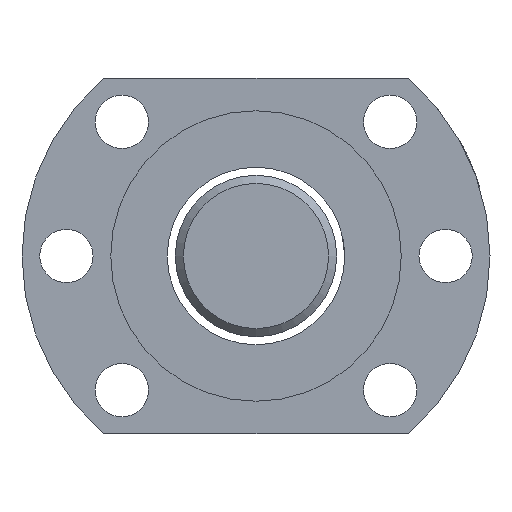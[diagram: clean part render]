
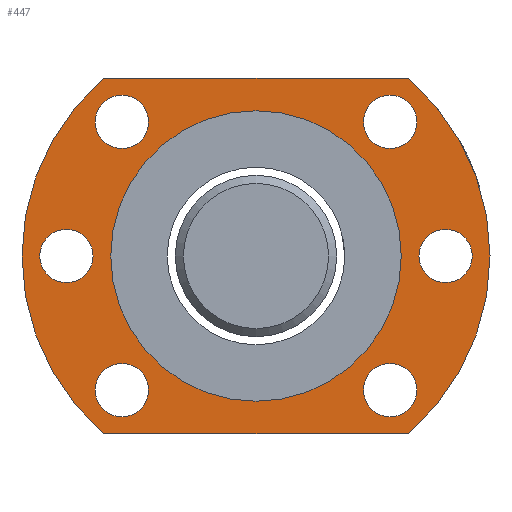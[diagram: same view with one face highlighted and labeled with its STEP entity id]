
A CAD part, left-side view. The second image highlights one B-rep face of the part: STEP entity #447.
In plain terms, the highlighted planar face has unit normal (-1, 0, 0).
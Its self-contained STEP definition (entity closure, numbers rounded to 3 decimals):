
#63=LINE('',#709,#71);
#68=LINE('',#750,#76);
#71=VECTOR('',#591,1000.);
#76=VECTOR('',#604,1000.);
#81=PLANE('',#518);
#121=ORIENTED_EDGE('',*,*,#213,.F.);
#122=ORIENTED_EDGE('',*,*,#205,.T.);
#123=ORIENTED_EDGE('',*,*,#197,.T.);
#124=ORIENTED_EDGE('',*,*,#211,.T.);
#125=ORIENTED_EDGE('',*,*,#208,.T.);
#126=ORIENTED_EDGE('',*,*,#186,.T.);
#127=ORIENTED_EDGE('',*,*,#194,.F.);
#128=ORIENTED_EDGE('',*,*,#196,.F.);
#129=ORIENTED_EDGE('',*,*,#188,.T.);
#130=ORIENTED_EDGE('',*,*,#192,.F.);
#131=ORIENTED_EDGE('',*,*,#190,.T.);
#186=EDGE_CURVE('',#234,#234,#274,.T.);
#188=EDGE_CURVE('',#236,#236,#276,.T.);
#190=EDGE_CURVE('',#238,#238,#278,.T.);
#192=EDGE_CURVE('',#240,#240,#280,.T.);
#194=EDGE_CURVE('',#242,#242,#282,.T.);
#196=EDGE_CURVE('',#244,#244,#284,.T.);
#197=EDGE_CURVE('',#245,#246,#63,.T.);
#205=EDGE_CURVE('',#253,#245,#285,.T.);
#208=EDGE_CURVE('',#255,#253,#68,.T.);
#211=EDGE_CURVE('',#246,#255,#287,.T.);
#213=EDGE_CURVE('',#257,#257,#289,.T.);
#234=VERTEX_POINT('',#682);
#236=VERTEX_POINT('',#687);
#238=VERTEX_POINT('',#692);
#240=VERTEX_POINT('',#697);
#242=VERTEX_POINT('',#702);
#244=VERTEX_POINT('',#707);
#245=VERTEX_POINT('',#710);
#246=VERTEX_POINT('',#711);
#253=VERTEX_POINT('',#745);
#255=VERTEX_POINT('',#751);
#257=VERTEX_POINT('',#760);
#274=CIRCLE('',#494,3.3);
#276=CIRCLE('',#497,3.3);
#278=CIRCLE('',#500,3.3);
#280=CIRCLE('',#503,3.3);
#282=CIRCLE('',#506,3.3);
#284=CIRCLE('',#509,3.3);
#285=CIRCLE('',#512,29.);
#287=CIRCLE('',#516,29.);
#289=CIRCLE('',#519,18.);
#319=EDGE_LOOP('',(#121));
#320=EDGE_LOOP('',(#122,#123,#124,#125));
#321=EDGE_LOOP('',(#126));
#322=EDGE_LOOP('',(#127));
#323=EDGE_LOOP('',(#128));
#324=EDGE_LOOP('',(#129));
#325=EDGE_LOOP('',(#130));
#326=EDGE_LOOP('',(#131));
#379=FACE_BOUND('',#319,.T.);
#380=FACE_BOUND('',#320,.T.);
#381=FACE_BOUND('',#321,.T.);
#382=FACE_BOUND('',#322,.T.);
#383=FACE_BOUND('',#323,.T.);
#384=FACE_BOUND('',#324,.T.);
#385=FACE_BOUND('',#325,.T.);
#386=FACE_BOUND('',#326,.T.);
#447=ADVANCED_FACE('',(#379,#380,#381,#382,#383,#384,#385,#386),#81,.T.);
#494=AXIS2_PLACEMENT_3D('',#681,#557,#558);
#497=AXIS2_PLACEMENT_3D('',#686,#563,#564);
#500=AXIS2_PLACEMENT_3D('',#691,#569,#570);
#503=AXIS2_PLACEMENT_3D('',#696,#575,#576);
#506=AXIS2_PLACEMENT_3D('',#701,#581,#582);
#509=AXIS2_PLACEMENT_3D('',#706,#587,#588);
#512=AXIS2_PLACEMENT_3D('',#744,#597,#598);
#516=AXIS2_PLACEMENT_3D('',#756,#609,#610);
#518=AXIS2_PLACEMENT_3D('',#758,#613,#614);
#519=AXIS2_PLACEMENT_3D('',#759,#615,#616);
#557=DIRECTION('',(1.,0.,0.));
#558=DIRECTION('',(0.,0.,1.));
#563=DIRECTION('',(1.,0.,0.));
#564=DIRECTION('',(0.,0.,1.));
#569=DIRECTION('',(1.,0.,0.));
#570=DIRECTION('',(0.,0.,1.));
#575=DIRECTION('',(-1.,0.,0.));
#576=DIRECTION('',(0.,0.,1.));
#581=DIRECTION('',(-1.,0.,0.));
#582=DIRECTION('',(0.,0.,1.));
#587=DIRECTION('',(-1.,0.,0.));
#588=DIRECTION('',(0.,0.,1.));
#591=DIRECTION('',(0.,1.,0.));
#597=DIRECTION('',(-1.,0.,0.));
#598=DIRECTION('',(0.,0.,-1.));
#604=DIRECTION('',(0.,-1.,0.));
#609=DIRECTION('',(-1.,0.,0.));
#610=DIRECTION('',(0.,0.,-1.));
#613=DIRECTION('',(-1.,0.,0.));
#614=DIRECTION('',(0.,0.,-1.));
#615=DIRECTION('',(-1.,0.,0.));
#616=DIRECTION('',(0.,0.,-1.));
#681=CARTESIAN_POINT('',(37.833,-48.691,35.782));
#682=CARTESIAN_POINT('',(37.833,-48.691,39.082));
#686=CARTESIAN_POINT('',(37.833,-55.574,19.165));
#687=CARTESIAN_POINT('',(37.833,-55.574,22.465));
#691=CARTESIAN_POINT('',(37.833,-48.691,2.548));
#692=CARTESIAN_POINT('',(37.833,-48.691,5.848));
#696=CARTESIAN_POINT('',(37.833,-15.457,2.548));
#697=CARTESIAN_POINT('',(37.833,-15.457,5.848));
#701=CARTESIAN_POINT('',(37.833,-15.457,35.782));
#702=CARTESIAN_POINT('',(37.833,-15.457,39.082));
#706=CARTESIAN_POINT('',(37.833,-8.574,19.165));
#707=CARTESIAN_POINT('',(37.833,-8.574,22.465));
#709=CARTESIAN_POINT('',(37.833,-50.968,41.165));
#710=CARTESIAN_POINT('',(37.833,-50.968,41.165));
#711=CARTESIAN_POINT('',(37.833,-13.179,41.165));
#744=CARTESIAN_POINT('',(37.833,-32.074,19.165));
#745=CARTESIAN_POINT('',(37.833,-50.968,-2.835));
#750=CARTESIAN_POINT('',(37.833,-13.179,-2.835));
#751=CARTESIAN_POINT('',(37.833,-13.179,-2.835));
#756=CARTESIAN_POINT('',(37.833,-32.074,19.165));
#758=CARTESIAN_POINT('',(37.833,-32.074,19.165));
#759=CARTESIAN_POINT('',(37.833,-32.074,19.165));
#760=CARTESIAN_POINT('',(37.833,-32.074,1.165));
